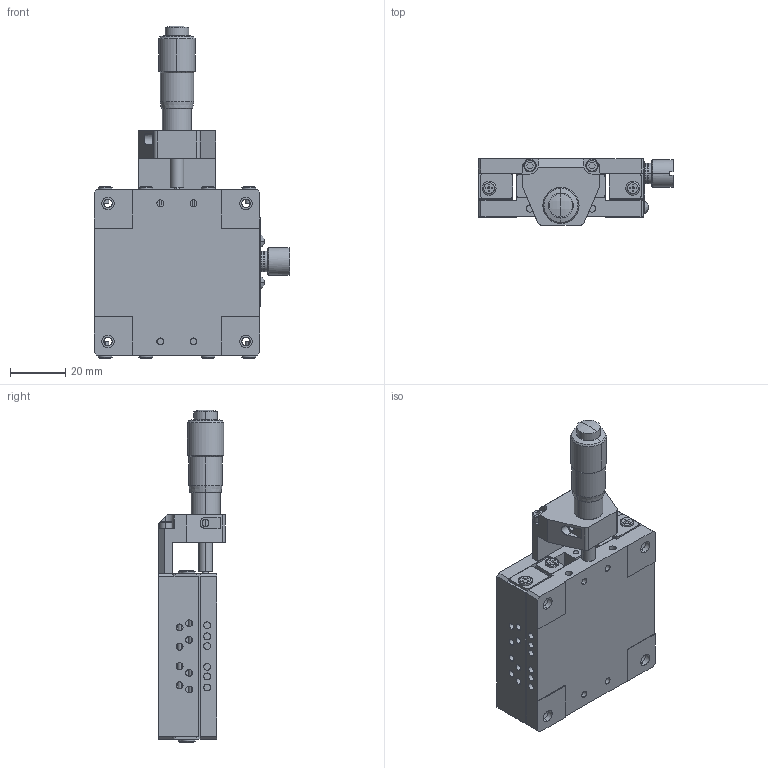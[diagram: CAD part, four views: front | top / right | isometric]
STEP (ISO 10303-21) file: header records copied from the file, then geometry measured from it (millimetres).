
FILE_DESCRIPTION (( 'STEP AP214' ), '1' );
FILE_NAME ('PBL-661CZ.STEP', '2018-07-24T08:26:04', ( '微软用户' ), ( '微软中国' ), 'SwSTEP 2.0', 'SolidWorks 2015', '' );
FILE_SCHEMA (( 'AUTOMOTIVE_DESIGN' ));
Length unit declared in the file: millimetre
Products named in the file (1): PBL-661CZ
Bounding box: 70.9 x 24 x 120.24 mm (x, y, z)
Volume: 72926.4 mm3; surface area: 46861.8 mm2
Topology: 43 solids, 43 shells, 1003 faces, 2537 edges, 1656 vertices
Faces by surface type: plane 470, cylinder 415, cone 107, bspline 11
Entity records: 43489 total; most frequent: CARTESIAN_POINT 7119, DIRECTION 5294, ORIENTED_EDGE 5020, EDGE_CURVE 2510, AXIS2_PLACEMENT_3D 1964, VERTEX_POINT 1643, VECTOR 1366, LINE 1366
